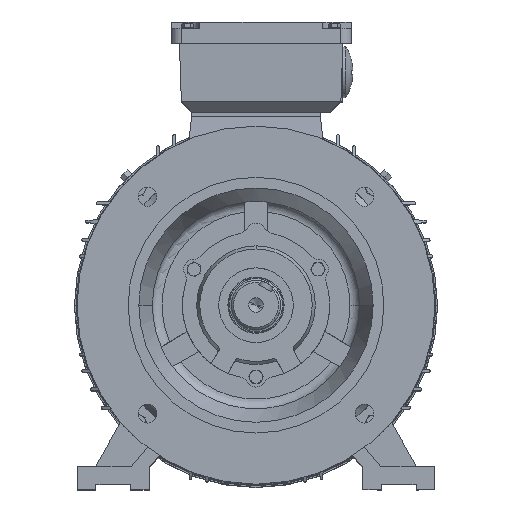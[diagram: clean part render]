
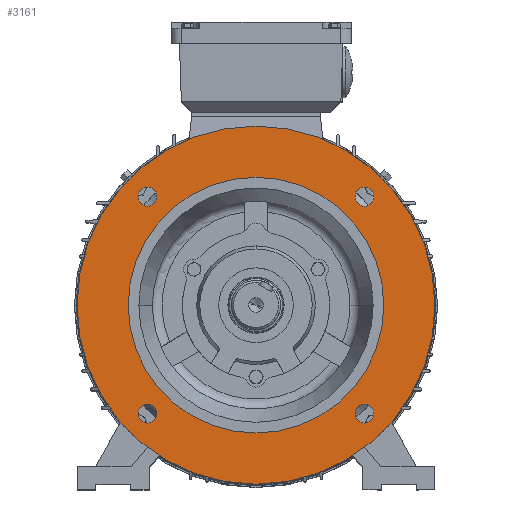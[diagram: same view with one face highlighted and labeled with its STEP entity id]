
A CAD part, top view. The second image highlights one B-rep face of the part: STEP entity #3161.
In plain terms, the highlighted planar face has unit normal (0, 0, 1) as drawn and (-1, 0, 0) by its records, which use the part's own axes.
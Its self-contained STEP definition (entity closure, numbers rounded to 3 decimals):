
#1253 = FACE_BOUND ( 'NONE', #7126, .T. ) ;
#1259 = FACE_BOUND ( 'NONE', #7141, .T. ) ;
#1260 = FACE_OUTER_BOUND ( 'NONE', #7138, .T. ) ;
#1261 = FACE_BOUND ( 'NONE', #7130, .T. ) ;
#1263 = FACE_BOUND ( 'NONE', #7086, .T. ) ;
#1264 = FACE_BOUND ( 'NONE', #7144, .T. ) ;
#3161 = ADVANCED_FACE ( 'NONE', ( #1253, #1263, #1261, #1260, #1259, #1264 ), #51237, .F. ) ;
#7086 = EDGE_LOOP ( 'NONE', ( #32209, #32211 ) ) ;
#7126 = EDGE_LOOP ( 'NONE', ( #32205, #32207 ) ) ;
#7130 = EDGE_LOOP ( 'NONE', ( #32213, #32215 ) ) ;
#7138 = EDGE_LOOP ( 'NONE', ( #32217, #32219 ) ) ;
#7141 = EDGE_LOOP ( 'NONE', ( #32221, #32223 ) ) ;
#7144 = EDGE_LOOP ( 'NONE', ( #32225, #32227 ) ) ;
#8937 = CIRCLE ( 'NONE', #77429, 9.25 ) ;
#8984 = CIRCLE ( 'NONE', #77440, 9.25 ) ;
#9038 = CIRCLE ( 'NONE', #77450, 9.25 ) ;
#9067 = CIRCLE ( 'NONE', #77456, 9.25 ) ;
#21636 = CIRCLE ( 'NONE', #77499, 175. ) ;
#21653 = CIRCLE ( 'NONE', #77535, 125. ) ;
#32205 = ORIENTED_EDGE ( 'NONE', *, *, #56258, .F. ) ;
#32207 = ORIENTED_EDGE ( 'NONE', *, *, #75418, .F. ) ;
#32209 = ORIENTED_EDGE ( 'NONE', *, *, #56284, .F. ) ;
#32211 = ORIENTED_EDGE ( 'NONE', *, *, #75421, .F. ) ;
#32213 = ORIENTED_EDGE ( 'NONE', *, *, #56404, .F. ) ;
#32215 = ORIENTED_EDGE ( 'NONE', *, *, #75423, .F. ) ;
#32217 = ORIENTED_EDGE ( 'NONE', *, *, #56354, .T. ) ;
#32219 = ORIENTED_EDGE ( 'NONE', *, *, #75427, .T. ) ;
#32221 = ORIENTED_EDGE ( 'NONE', *, *, #56275, .F. ) ;
#32223 = ORIENTED_EDGE ( 'NONE', *, *, #75430, .F. ) ;
#32225 = ORIENTED_EDGE ( 'NONE', *, *, #56241, .F. ) ;
#32227 = ORIENTED_EDGE ( 'NONE', *, *, #75433, .F. ) ;
#34734 = CARTESIAN_POINT ( 'NONE',  ( 5., 106.066, -115.316 ) ) ;
#34737 = CARTESIAN_POINT ( 'NONE',  ( 5., 106.066, -96.816 ) ) ;
#34742 = CARTESIAN_POINT ( 'NONE',  ( 5., -106.066, -115.316 ) ) ;
#34745 = CARTESIAN_POINT ( 'NONE',  ( 5., -106.066, -96.816 ) ) ;
#34750 = CARTESIAN_POINT ( 'NONE',  ( 5., -106.066, 96.816 ) ) ;
#34753 = CARTESIAN_POINT ( 'NONE',  ( 5., -106.066, 115.316 ) ) ;
#34754 = CARTESIAN_POINT ( 'NONE',  ( 5., 106.066, 96.816 ) ) ;
#34755 = CARTESIAN_POINT ( 'NONE',  ( 5., 106.066, 115.316 ) ) ;
#34787 = CARTESIAN_POINT ( 'NONE',  ( 5., 0., 175. ) ) ;
#34788 = CARTESIAN_POINT ( 'NONE',  ( 5., 0., -175. ) ) ;
#34800 = CARTESIAN_POINT ( 'NONE',  ( 5., 0., -125. ) ) ;
#34807 = CARTESIAN_POINT ( 'NONE',  ( 5., 0., 125. ) ) ;
#39394 = CIRCLE ( 'NONE', #40502, 9.25 ) ;
#39405 = CIRCLE ( 'NONE', #40506, 9.25 ) ;
#39407 = CIRCLE ( 'NONE', #40509, 125. ) ;
#39411 = CIRCLE ( 'NONE', #40517, 9.25 ) ;
#39414 = CIRCLE ( 'NONE', #40520, 9.25 ) ;
#39416 = CIRCLE ( 'NONE', #40513, 175. ) ;
#40502 = AXIS2_PLACEMENT_3D ( 'NONE', #66824, #66825, #66827 ) ;
#40506 = AXIS2_PLACEMENT_3D ( 'NONE', #66832, #66833, #66835 ) ;
#40509 = AXIS2_PLACEMENT_3D ( 'NONE', #66839, #66841, #66843 ) ;
#40513 = AXIS2_PLACEMENT_3D ( 'NONE', #66849, #66850, #66852 ) ;
#40517 = AXIS2_PLACEMENT_3D ( 'NONE', #66857, #66859, #66860 ) ;
#40520 = AXIS2_PLACEMENT_3D ( 'NONE', #66866, #66868, #66870 ) ;
#51235 = DIRECTION ( 'NONE',  ( 1., 0., 0. ) ) ;
#51237 = PLANE ( 'NONE',  #78874 ) ;
#51239 = CARTESIAN_POINT ( 'NONE',  ( 5., 125., 0. ) ) ;
#51241 = DIRECTION ( 'NONE',  ( 0., 0., -1. ) ) ;
#52363 = VERTEX_POINT ( 'NONE', #34734 ) ;
#52366 = VERTEX_POINT ( 'NONE', #34737 ) ;
#52371 = VERTEX_POINT ( 'NONE', #34742 ) ;
#52374 = VERTEX_POINT ( 'NONE', #34745 ) ;
#52379 = VERTEX_POINT ( 'NONE', #34750 ) ;
#52382 = VERTEX_POINT ( 'NONE', #34753 ) ;
#52383 = VERTEX_POINT ( 'NONE', #34754 ) ;
#52384 = VERTEX_POINT ( 'NONE', #34755 ) ;
#52416 = VERTEX_POINT ( 'NONE', #34787 ) ;
#52417 = VERTEX_POINT ( 'NONE', #34788 ) ;
#52429 = VERTEX_POINT ( 'NONE', #34800 ) ;
#52436 = VERTEX_POINT ( 'NONE', #34807 ) ;
#56241 = EDGE_CURVE ( 'NONE', #52363, #52366, #8937, .T. ) ;
#56258 = EDGE_CURVE ( 'NONE', #52371, #52374, #8984, .T. ) ;
#56275 = EDGE_CURVE ( 'NONE', #52379, #52382, #9038, .T. ) ;
#56284 = EDGE_CURVE ( 'NONE', #52383, #52384, #9067, .T. ) ;
#56354 = EDGE_CURVE ( 'NONE', #52416, #52417, #21636, .T. ) ;
#56404 = EDGE_CURVE ( 'NONE', #52436, #52429, #21653, .T. ) ;
#66824 = CARTESIAN_POINT ( 'NONE',  ( 5., -106.066, -106.066 ) ) ;
#66825 = DIRECTION ( 'NONE',  ( -1., 0., 0. ) ) ;
#66827 = DIRECTION ( 'NONE',  ( 0., 0., -1. ) ) ;
#66832 = CARTESIAN_POINT ( 'NONE',  ( 5., 106.066, 106.066 ) ) ;
#66833 = DIRECTION ( 'NONE',  ( -1., 0., 0. ) ) ;
#66835 = DIRECTION ( 'NONE',  ( 0., 0., -1. ) ) ;
#66839 = CARTESIAN_POINT ( 'NONE',  ( 5., 0., 0. ) ) ;
#66841 = DIRECTION ( 'NONE',  ( -1., 0., 0. ) ) ;
#66843 = DIRECTION ( 'NONE',  ( 0., 0., 1. ) ) ;
#66849 = CARTESIAN_POINT ( 'NONE',  ( 5., 0., 0. ) ) ;
#66850 = DIRECTION ( 'NONE',  ( -1., 0., 0. ) ) ;
#66852 = DIRECTION ( 'NONE',  ( 0., 0., 1. ) ) ;
#66857 = CARTESIAN_POINT ( 'NONE',  ( 5., -106.066, 106.066 ) ) ;
#66859 = DIRECTION ( 'NONE',  ( -1., 0., 0. ) ) ;
#66860 = DIRECTION ( 'NONE',  ( 0., 0., -1. ) ) ;
#66866 = CARTESIAN_POINT ( 'NONE',  ( 5., 106.066, -106.066 ) ) ;
#66868 = DIRECTION ( 'NONE',  ( -1., 0., 0. ) ) ;
#66870 = DIRECTION ( 'NONE',  ( 0., 0., -1. ) ) ;
#75418 = EDGE_CURVE ( 'NONE', #52374, #52371, #39394, .T. ) ;
#75421 = EDGE_CURVE ( 'NONE', #52384, #52383, #39405, .T. ) ;
#75423 = EDGE_CURVE ( 'NONE', #52429, #52436, #39407, .T. ) ;
#75427 = EDGE_CURVE ( 'NONE', #52417, #52416, #39416, .T. ) ;
#75430 = EDGE_CURVE ( 'NONE', #52382, #52379, #39411, .T. ) ;
#75433 = EDGE_CURVE ( 'NONE', #52366, #52363, #39414, .T. ) ;
#77429 = AXIS2_PLACEMENT_3D ( 'NONE', #95823, #95824, #95825 ) ;
#77440 = AXIS2_PLACEMENT_3D ( 'NONE', #95843, #95844, #95845 ) ;
#77450 = AXIS2_PLACEMENT_3D ( 'NONE', #95863, #95864, #95865 ) ;
#77456 = AXIS2_PLACEMENT_3D ( 'NONE', #95873, #95874, #95875 ) ;
#77499 = AXIS2_PLACEMENT_3D ( 'NONE', #95956, #95957, #95958 ) ;
#77535 = AXIS2_PLACEMENT_3D ( 'NONE', #96042, #96043, #96044 ) ;
#78874 = AXIS2_PLACEMENT_3D ( 'NONE', #51239, #51235, #51241 ) ;
#95823 = CARTESIAN_POINT ( 'NONE',  ( 5., 106.066, -106.066 ) ) ;
#95824 = DIRECTION ( 'NONE',  ( -1., 0., 0. ) ) ;
#95825 = DIRECTION ( 'NONE',  ( 0., 0., -1. ) ) ;
#95843 = CARTESIAN_POINT ( 'NONE',  ( 5., -106.066, -106.066 ) ) ;
#95844 = DIRECTION ( 'NONE',  ( -1., 0., 0. ) ) ;
#95845 = DIRECTION ( 'NONE',  ( 0., 0., -1. ) ) ;
#95863 = CARTESIAN_POINT ( 'NONE',  ( 5., -106.066, 106.066 ) ) ;
#95864 = DIRECTION ( 'NONE',  ( -1., 0., 0. ) ) ;
#95865 = DIRECTION ( 'NONE',  ( 0., 0., -1. ) ) ;
#95873 = CARTESIAN_POINT ( 'NONE',  ( 5., 106.066, 106.066 ) ) ;
#95874 = DIRECTION ( 'NONE',  ( -1., 0., 0. ) ) ;
#95875 = DIRECTION ( 'NONE',  ( 0., 0., -1. ) ) ;
#95956 = CARTESIAN_POINT ( 'NONE',  ( 5., 0., 0. ) ) ;
#95957 = DIRECTION ( 'NONE',  ( -1., 0., 0. ) ) ;
#95958 = DIRECTION ( 'NONE',  ( 0., 0., 1. ) ) ;
#96042 = CARTESIAN_POINT ( 'NONE',  ( 5., 0., 0. ) ) ;
#96043 = DIRECTION ( 'NONE',  ( -1., 0., 0. ) ) ;
#96044 = DIRECTION ( 'NONE',  ( 0., 0., 1. ) ) ;
